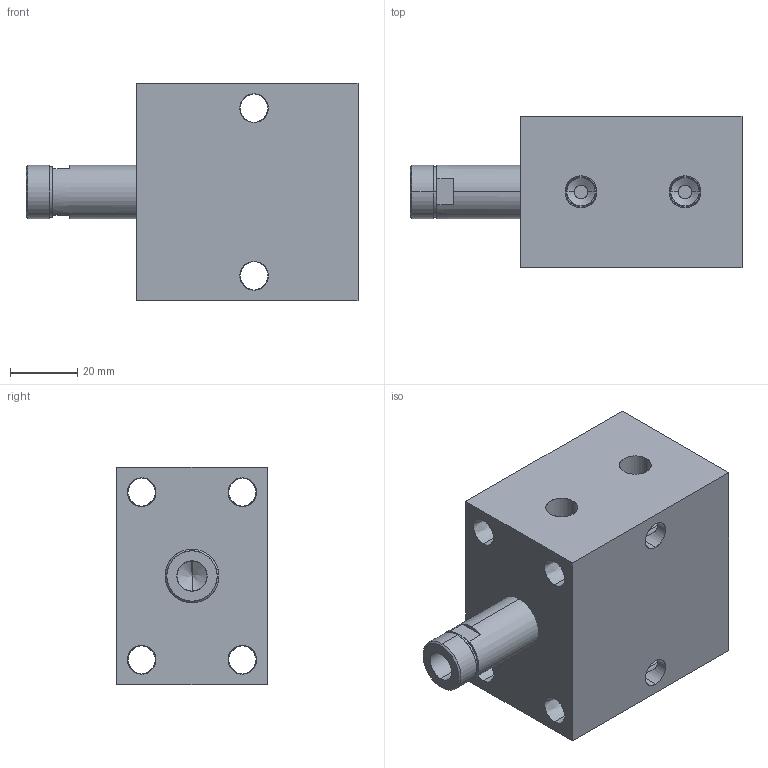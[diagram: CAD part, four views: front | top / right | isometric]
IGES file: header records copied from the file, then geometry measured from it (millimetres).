
Start section: SolidWorks IGES file using analytic representation for surfaces
Global section: file name: C:\Documents and Settings\rajib\Desktop\Rajib\BLOCK CYLINDER HYDRAULIC\0201-0206\0204.IGS; native system: SolidWorks 2007; preprocessor: SolidWorks 2007; author: rajib; date: 110121.094235; units: millimetre
Bounding box: 99 x 45 x 65 mm (x, y, z)
Surface area: 32991.4 mm2 (no closed solid volume)
Topology: 0 solids, 0 shells, 80 faces, 1752 edges, 1750 vertices
Faces by surface type: revolution 58, bspline 22
